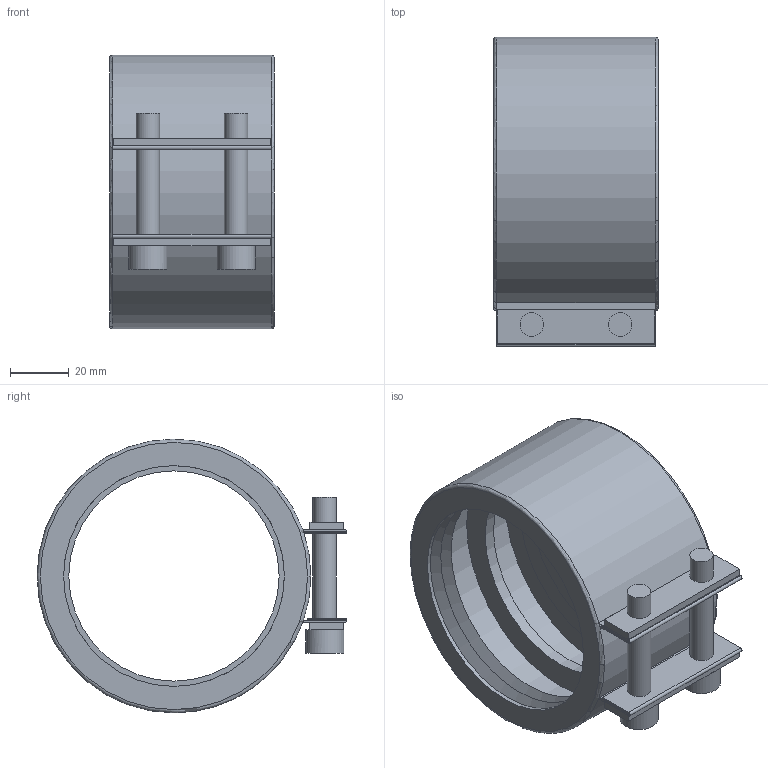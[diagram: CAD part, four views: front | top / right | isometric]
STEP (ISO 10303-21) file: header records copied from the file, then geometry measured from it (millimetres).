
FILE_DESCRIPTION( ( 'STEP AP214' ), '1' );
FILE_NAME( 'C:/Users/ilukic/Documents/ex/gebaudeentwasserung/pe/Geberit adapter clamping connector/359434.stp', '2020-03-26T18:41:16', ( '' ), ( '' ), ' ', 'PARTsolutions', ' ' );
FILE_SCHEMA( ( 'AUTOMOTIVE_DESIGN { 1 0 10303 214 1 1 1 1 }' ) );
Length unit declared in the file: millimetre
Products named in the file (1): _359434
Bounding box: 56 x 105.25 x 93 mm (x, y, z)
Volume: 70767.3 mm3; surface area: 66140.8 mm2
Topology: 1 solids, 1 shells, 121 faces, 309 edges, 202 vertices
Faces by surface type: plane 91, cylinder 22, cone 6, torus 2
Full cylindrical faces by diameter (mm): 8 x8, 13 x2, 71.429 x1, 75 x2, 89.251 x2
Entity records: 4378 total; most frequent: CARTESIAN_POINT 680, DIRECTION 544, ORIENTED_EDGE 536, EDGE_CURVE 268, AXIS2_PLACEMENT_3D 192, VERTEX_POINT 184, EDGE_LOOP 168, LINE 160
